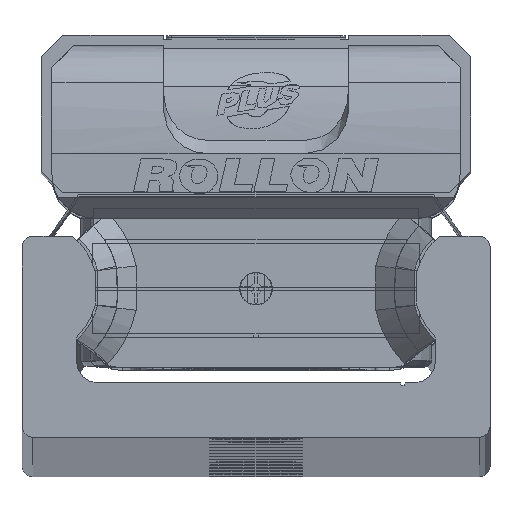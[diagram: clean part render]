
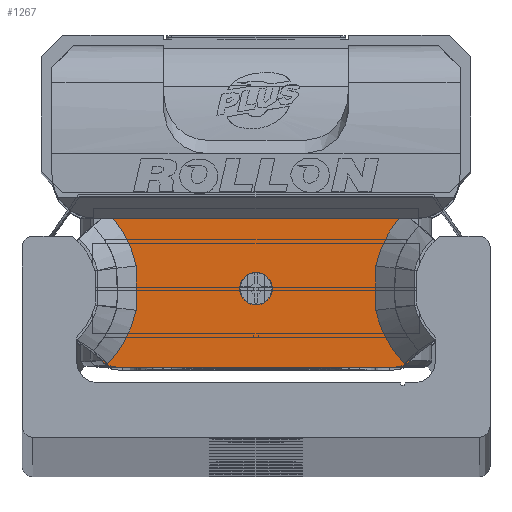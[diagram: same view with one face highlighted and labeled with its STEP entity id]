
A CAD part, top view. The second image highlights one B-rep face of the part: STEP entity #1267.
In plain terms, the highlighted planar face has unit normal (0, 0, 1) as drawn and (0, 0, -1) by its records, which use the part's own axes.
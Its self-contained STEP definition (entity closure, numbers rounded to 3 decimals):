
#1267 = ADVANCED_FACE( '', ( #3030, #3031 ), #3032, .F. );
#3030 = FACE_BOUND( '', #5398, .T. );
#3031 = FACE_OUTER_BOUND( '', #5399, .T. );
#3032 = PLANE( '', #5400 );
#5398 = EDGE_LOOP( '', ( #9028 ) );
#5399 = EDGE_LOOP( '', ( #9029, #9030, #9031, #9032, #9033, #9034, #9035, #9036, #9037, #9038, #9039, #9040 ) );
#5400 = AXIS2_PLACEMENT_3D( '', #9041, #9042, #9043 );
#9028 = ORIENTED_EDGE( '', *, *, #13436, .T. );
#9029 = ORIENTED_EDGE( '', *, *, #14091, .T. );
#9030 = ORIENTED_EDGE( '', *, *, #14147, .F. );
#9031 = ORIENTED_EDGE( '', *, *, #13484, .T. );
#9032 = ORIENTED_EDGE( '', *, *, #14148, .F. );
#9033 = ORIENTED_EDGE( '', *, *, #14149, .T. );
#9034 = ORIENTED_EDGE( '', *, *, #14150, .T. );
#9035 = ORIENTED_EDGE( '', *, *, #14151, .T. );
#9036 = ORIENTED_EDGE( '', *, *, #14152, .T. );
#9037 = ORIENTED_EDGE( '', *, *, #14153, .T. );
#9038 = ORIENTED_EDGE( '', *, *, #14154, .T. );
#9039 = ORIENTED_EDGE( '', *, *, #14155, .T. );
#9040 = ORIENTED_EDGE( '', *, *, #14156, .T. );
#9041 = CARTESIAN_POINT( '', ( 14.9, 7.35, -13.25 ) );
#9042 = DIRECTION( '', ( 0., 0., 1. ) );
#9043 = DIRECTION( '', ( 1., 0., 0. ) );
#13436 = EDGE_CURVE( '', #16057, #16057, #16058, .T. );
#13484 = EDGE_CURVE( '', #16143, #16141, #16144, .T. );
#14091 = EDGE_CURVE( '', #17154, #17152, #17155, .T. );
#14147 = EDGE_CURVE( '', #16143, #17152, #17241, .T. );
#14148 = EDGE_CURVE( '', #17242, #16141, #17243, .T. );
#14149 = EDGE_CURVE( '', #17242, #17244, #17245, .T. );
#14150 = EDGE_CURVE( '', #17244, #17246, #17247, .T. );
#14151 = EDGE_CURVE( '', #17246, #17248, #17249, .T. );
#14152 = EDGE_CURVE( '', #17248, #17250, #17251, .T. );
#14153 = EDGE_CURVE( '', #17250, #17252, #17253, .T. );
#14154 = EDGE_CURVE( '', #17252, #17254, #17255, .T. );
#14155 = EDGE_CURVE( '', #17254, #17256, #17257, .T. );
#14156 = EDGE_CURVE( '', #17256, #17154, #17258, .T. );
#16057 = VERTEX_POINT( '', #19766 );
#16058 = CIRCLE( '', #19767, 1.5 );
#16141 = VERTEX_POINT( '', #19905 );
#16143 = VERTEX_POINT( '', #19908 );
#16144 = LINE( '', #19909, #19910 );
#17152 = VERTEX_POINT( '', #21264 );
#17154 = VERTEX_POINT( '', #21267 );
#17155 = B_SPLINE_CURVE_WITH_KNOTS( '', 1, ( #21268, #21269 ), .UNSPECIFIED., .F., .F., ( 2, 2 ), ( 0., 1. ), .UNSPECIFIED. );
#17241 = CIRCLE( '', #21389, 2.5 );
#17242 = VERTEX_POINT( '', #21390 );
#17243 = CIRCLE( '', #21391, 2.5 );
#17244 = VERTEX_POINT( '', #21392 );
#17245 = B_SPLINE_CURVE_WITH_KNOTS( '', 1, ( #21393, #21394 ), .UNSPECIFIED., .F., .F., ( 2, 2 ), ( 0., 1. ), .UNSPECIFIED. );
#17246 = VERTEX_POINT( '', #21395 );
#17247 = B_SPLINE_CURVE_WITH_KNOTS( '', 2, ( #21396, #21397, #21398, #21399, #21400 ), .UNSPECIFIED., .F., .F., ( 3, 2, 3 ), ( 0., 0.5, 1. ), .UNSPECIFIED. );
#17248 = VERTEX_POINT( '', #21401 );
#17249 = B_SPLINE_CURVE_WITH_KNOTS( '', 2, ( #21402, #21403, #21404 ), .UNSPECIFIED., .F., .F., ( 3, 3 ), ( 0., 1. ), .UNSPECIFIED. );
#17250 = VERTEX_POINT( '', #21405 );
#17251 = B_SPLINE_CURVE_WITH_KNOTS( '', 2, ( #21406, #21407, #21408, #21409, #21410 ), .UNSPECIFIED., .F., .F., ( 3, 2, 3 ), ( 0., 0.5, 0.868 ), .UNSPECIFIED. );
#17252 = VERTEX_POINT( '', #21411 );
#17253 = LINE( '', #21412, #21413 );
#17254 = VERTEX_POINT( '', #21414 );
#17255 = B_SPLINE_CURVE_WITH_KNOTS( '', 2, ( #21415, #21416, #21417, #21418, #21419 ), .UNSPECIFIED., .F., .F., ( 3, 2, 3 ), ( 0.133, 0.5, 1. ), .UNSPECIFIED. );
#17256 = VERTEX_POINT( '', #21420 );
#17257 = B_SPLINE_CURVE_WITH_KNOTS( '', 2, ( #21421, #21422, #21423 ), .UNSPECIFIED., .F., .F., ( 3, 3 ), ( 0., 1. ), .UNSPECIFIED. );
#17258 = B_SPLINE_CURVE_WITH_KNOTS( '', 2, ( #21424, #21425, #21426, #21427, #21428 ), .UNSPECIFIED., .F., .F., ( 3, 2, 3 ), ( 0., 0.5, 1. ), .UNSPECIFIED. );
#19766 = CARTESIAN_POINT( '', ( 1.5, -0.05, -13.25 ) );
#19767 = AXIS2_PLACEMENT_3D( '', #24162, #24163, #24164 );
#19905 = CARTESIAN_POINT( '', ( -12.58, -7.3, -13.25 ) );
#19908 = CARTESIAN_POINT( '', ( 12.58, -7.3, -13.25 ) );
#19909 = CARTESIAN_POINT( '', ( 12.58, -7.3, -13.25 ) );
#19910 = VECTOR( '', #24241, 1000. );
#21264 = CARTESIAN_POINT( '', ( 14.906, -5.717, -13.25 ) );
#21267 = CARTESIAN_POINT( '', ( 13.628, -6.965, -13.25 ) );
#21268 = CARTESIAN_POINT( '', ( 13.628, -6.965, -13.25 ) );
#21269 = CARTESIAN_POINT( '', ( 14.9, -5.728, -13.25 ) );
#21389 = AXIS2_PLACEMENT_3D( '', #25236, #25237, #25238 );
#21390 = CARTESIAN_POINT( '', ( -14.904, -5.718, -13.25 ) );
#21391 = AXIS2_PLACEMENT_3D( '', #25239, #25240, #25241 );
#21392 = CARTESIAN_POINT( '', ( -13.628, -6.965, -13.25 ) );
#21393 = CARTESIAN_POINT( '', ( -14.915, -5.713, -13.25 ) );
#21394 = CARTESIAN_POINT( '', ( -13.628, -6.965, -13.25 ) );
#21395 = CARTESIAN_POINT( '', ( -11.012, -2.045, -13.25 ) );
#21396 = CARTESIAN_POINT( '', ( -13.628, -6.965, -13.25 ) );
#21397 = CARTESIAN_POINT( '', ( -12.638, -5.946, -13.25 ) );
#21398 = CARTESIAN_POINT( '', ( -11.97, -4.691, -13.25 ) );
#21399 = CARTESIAN_POINT( '', ( -11.303, -3.437, -13.25 ) );
#21400 = CARTESIAN_POINT( '', ( -11.012, -2.045, -13.25 ) );
#21401 = CARTESIAN_POINT( '', ( -11.012, 2.045, -13.25 ) );
#21402 = CARTESIAN_POINT( '', ( -11.012, -2.045, -13.25 ) );
#21403 = CARTESIAN_POINT( '', ( -10.888, 0., -13.25 ) );
#21404 = CARTESIAN_POINT( '', ( -11.012, 2.045, -13.25 ) );
#21405 = CARTESIAN_POINT( '', ( -13.119, 6.4, -13.25 ) );
#21406 = CARTESIAN_POINT( '', ( -11.012, 2.045, -13.25 ) );
#21407 = CARTESIAN_POINT( '', ( -11.302, 3.432, -13.25 ) );
#21408 = CARTESIAN_POINT( '', ( -11.967, 4.685, -13.25 ) );
#21409 = CARTESIAN_POINT( '', ( -12.456, 5.606, -13.25 ) );
#21410 = CARTESIAN_POINT( '', ( -13.119, 6.4, -13.25 ) );
#21411 = CARTESIAN_POINT( '', ( 13.12, 6.4, -13.25 ) );
#21412 = CARTESIAN_POINT( '', ( 14.9, 6.4, -13.25 ) );
#21413 = VECTOR( '', #25242, 1000. );
#21414 = CARTESIAN_POINT( '', ( 11.012, 2.045, -13.25 ) );
#21415 = CARTESIAN_POINT( '', ( 13.119, 6.4, -13.25 ) );
#21416 = CARTESIAN_POINT( '', ( 12.459, 5.608, -13.25 ) );
#21417 = CARTESIAN_POINT( '', ( 11.968, 4.684, -13.25 ) );
#21418 = CARTESIAN_POINT( '', ( 11.301, 3.427, -13.25 ) );
#21419 = CARTESIAN_POINT( '', ( 11.012, 2.045, -13.25 ) );
#21420 = CARTESIAN_POINT( '', ( 11.012, -2.045, -13.25 ) );
#21421 = CARTESIAN_POINT( '', ( 11.012, 2.045, -13.25 ) );
#21422 = CARTESIAN_POINT( '', ( 10.888, 0., -13.25 ) );
#21423 = CARTESIAN_POINT( '', ( 11.012, -2.045, -13.25 ) );
#21424 = CARTESIAN_POINT( '', ( 11.012, -2.045, -13.25 ) );
#21425 = CARTESIAN_POINT( '', ( 11.301, -3.43, -13.25 ) );
#21426 = CARTESIAN_POINT( '', ( 11.972, -4.69, -13.25 ) );
#21427 = CARTESIAN_POINT( '', ( 12.642, -5.95, -13.25 ) );
#21428 = CARTESIAN_POINT( '', ( 13.628, -6.965, -13.25 ) );
#24162 = CARTESIAN_POINT( '', ( 0., -0.05, -13.25 ) );
#24163 = DIRECTION( '', ( 0., 0., 1. ) );
#24164 = DIRECTION( '', ( 1., 0., 0. ) );
#24241 = DIRECTION( '', ( -1., 0., 0. ) );
#25236 = CARTESIAN_POINT( '', ( 12.58, -4.8, -13.25 ) );
#25237 = DIRECTION( '', ( 0., 0., 1. ) );
#25238 = DIRECTION( '', ( 1., 0., 0. ) );
#25239 = CARTESIAN_POINT( '', ( -12.58, -4.8, -13.25 ) );
#25240 = DIRECTION( '', ( 0., 0., 1. ) );
#25241 = DIRECTION( '', ( 1., 0., 0. ) );
#25242 = DIRECTION( '', ( 1., 0., 0. ) );
